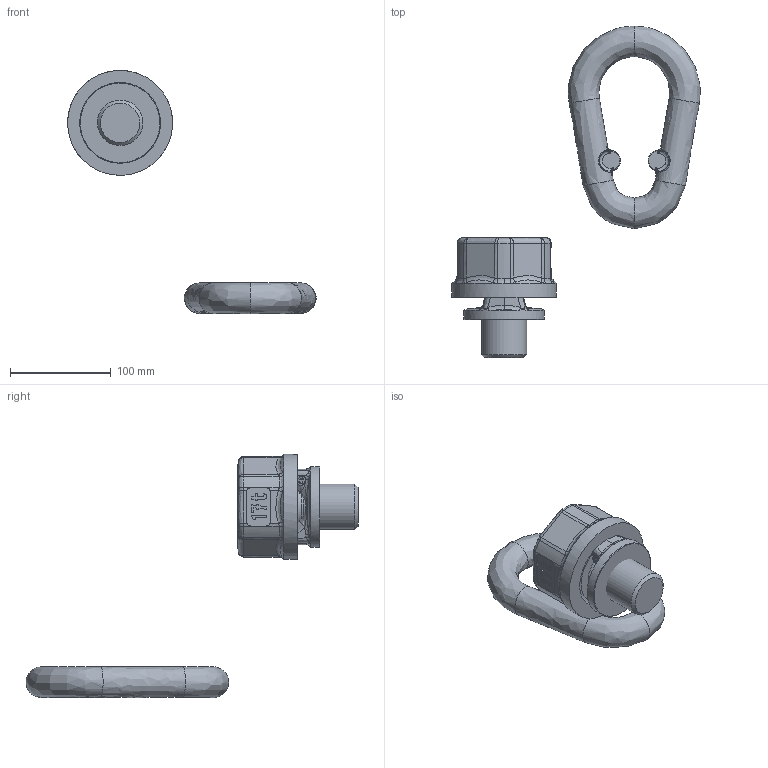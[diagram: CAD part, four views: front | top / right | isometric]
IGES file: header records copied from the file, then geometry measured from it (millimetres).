
Global section: file name: C:\ideas\IDEAS-Daten\temp\TP_Iges\TP17_M45x60_senkrecht.igs; preprocessor: I-DEAS 3D IGES Translator 11; date: 20090205.111153; units: millimetre
Bounding box: 246.45 x 329.18 x 241.11 mm (x, y, z)
Volume: 981344.7 mm3; surface area: 110072.6 mm2
Topology: 3 solids, 3 shells, 677 faces, 1684 edges, 1018 vertices
Faces by surface type: bspline 677
